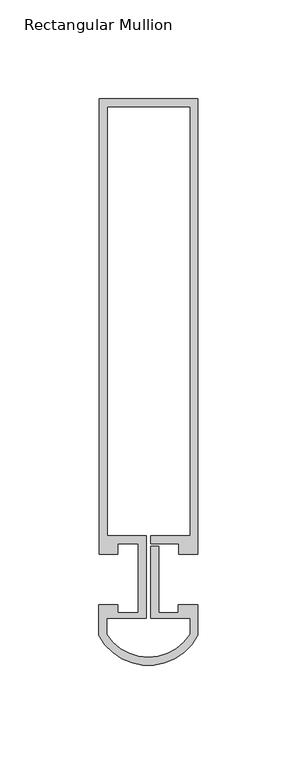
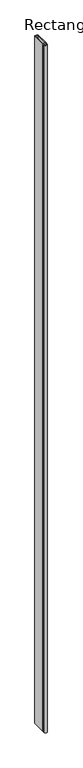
"""IFC4 building model written with IfcOpenShell, lengths in millimetres: member geometry, Rectangular Mullion : Reynaers_CW-50_Transom-Transom_Horizontal_230.5mm_Facecap-07."""

from ifc_helpers import new_model, si_unit, point, frame, frame_2d, origin, place, context, project, spatial, polyline, circle_curve, trimmed, segment, composite_curve, outline, extrude, source, transform, mapped, element, save


def rectangular_mullion_09148681(model_context):
    return source(origin(), model_context, "Body", "SweptSolid", [
        extrude(outline(composite_curve([segment(polyline([(25.1995941, 12.7331291), (15.499, 12.7331291), (15.499, 18.1331291), (1.2995941, 18.1331291), (1.2995941, 22.1331291), (21.1995941, 22.1331291), (21.1995941, 239.2331291), (-20.8004059, 239.2331291), (-20.8004059, 22.1331291), (-0.9004059, 22.1331291), (-0.9004059, -19.7331291), (-20.960579, -19.7331291), (-20.960579, -27.7331291)]), True, "CONTINUOUS"), segment(trimmed(circle_curve(frame_2d((0.1195075, -14.5934909)), 24.8398901), [point((-20.960579, -27.7331291))], [point((21.1995941, -27.7331291))], True, "CARTESIAN"), True, "CONTINUOUS"), segment(polyline([(21.1995941, -27.7331291), (21.1995941, -19.7331291), (1.2995941, -19.7331291), (1.2995941, 16.7615089), (5.2995941, 16.7615089), (5.2995941, -16.7331291), (15.2996495, -16.7331291), (15.2996495, -12.7331291), (25.1995941, -12.7331291), (25.1995941, -28.2927678)]), True, "CONTINUOUS"), segment(trimmed(circle_curve(frame_2d((0.1195075, -15.0907737)), 28.3426074), [point((25.1995941, -28.2927678))], [point((-24.960579, -28.2927678))], False, "CARTESIAN"), True, "CONTINUOUS"), segment(polyline([(-24.960579, -28.2927678), (-24.960579, -12.7331291), (-15.2996495, -12.7331291), (-15.2996495, -16.7331291), (-4.9004059, -16.7331291), (-4.9004059, 18.1331291), (-15.499, 18.1331291), (-15.499, 12.7331291), (-24.8004059, 12.7331291), (-24.8004059, 243.2331291), (25.1995941, 243.2331291), (25.1995941, 12.7331291)]), True, "CONTINUOUS")], self_intersect=False)), frame((0.0, 0.0, -12000.0), z_axis=(0.0, 0.0, 1.0), x_axis=(1.0, 0.0, 0.0)), (0.0, 0.0, 1.0), 12000.0),
    ])


if __name__ == "__main__":
    model = new_model("IFC4")
    model_context = context("Model", 3, world=origin())
    ifc_project = project(units=[si_unit("LENGTHUNIT", "METRE", prefix="MILLI")], contexts=[model_context])
    site = spatial("IfcSite", under=ifc_project)
    building = spatial("IfcBuilding", under=site)
    placement = place(None, origin())
    rectangular_mullion_shape = rectangular_mullion_09148681(model_context)
    element("IfcMember", 1, ObjectType="Rectangular Mullion : Reynaers_CW-50_Transom-Transom_Horizontal_230.5mm_Facecap-07", at=placement, inside=building, context=model_context, shape_type="MappedRepresentation", body=[
        mapped(rectangular_mullion_shape, transform((0.0, 0.0, 0.0), x_axis=(1.0, 0.0, 0.0), y_axis=(0.0, 1.0, 0.0), z_axis=(0.0, 0.0, 1.0))),
    ])
    save(model, "model.ifc")
